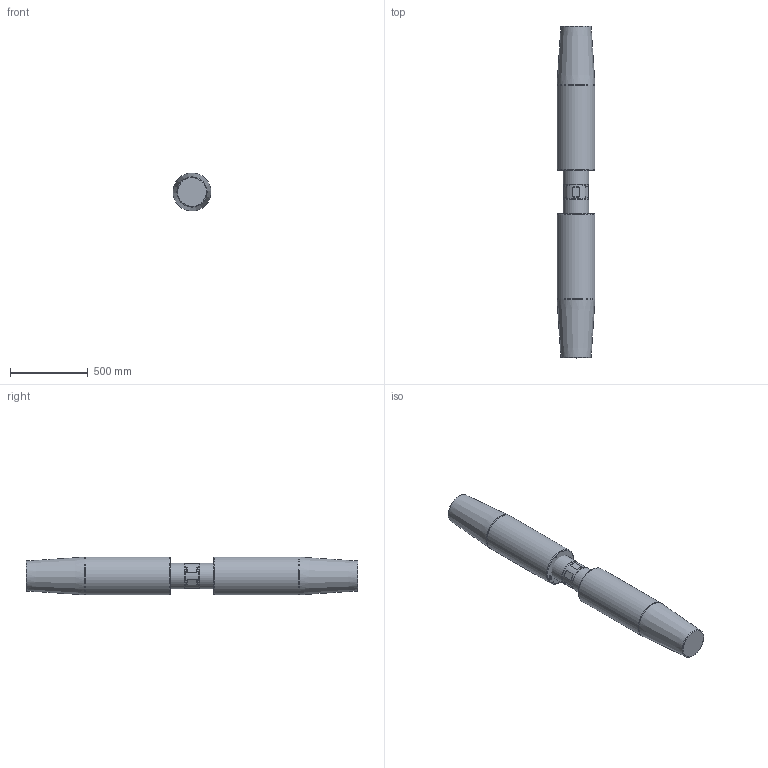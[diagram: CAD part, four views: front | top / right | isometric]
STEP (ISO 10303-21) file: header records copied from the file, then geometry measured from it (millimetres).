
FILE_DESCRIPTION(/* description */ (''),/* implementation_level */ '2;1');
FILE_NAME(/* name */ 'D:\Clienti\Redaelli (inventor)\CYA\STEP\Arrangement\CYA084 52 061 2.stp',/* time_stamp */ '2021-05-09T10:27:35+02:00',/* author */ ('fabri'),/* organization */ (''),/* preprocessor_version */ 'ST-DEVELOPER v16.13',/* originating_system */ 'Autodesk Inventor 2018',/* authorisation */ '');
FILE_SCHEMA (('AUTOMOTIVE_DESIGN { 1 0 10303 214 3 1 1 }'));
Length unit declared in the file: millimetre
Products named in the file (4): CYA012-54-062-0; TBF012-12-012-1; TBF012-13-012-0; TBF012-13-012-0_1
Assembly tree (3 placements, depth 2):
  CYA012-54-062-0
    TBF012-12-012-1
    TBF012-13-012-0
    TBF012-13-012-0_1
Bounding box: 244.84 x 2140 x 244.84 mm (x, y, z)
Volume: 101492702.4 mm3; surface area: 2077015.1 mm2
Topology: 3 solids, 3 shells, 511 faces, 1353 edges, 900 vertices
Faces by surface type: bspline 249, plane 219, cylinder 25, cone 14, torus 4
Full cylindrical faces by diameter (mm): 10.106 x6, 17.294 x2, 161 x1, 165 x2, 245 x2
Entity records: 17321 total; most frequent: CARTESIAN_POINT 6403, ORIENTED_EDGE 2628, DIRECTION 1372, EDGE_CURVE 1314, VERTEX_POINT 892, LINE 754, VECTOR 754, EDGE_LOOP 594
